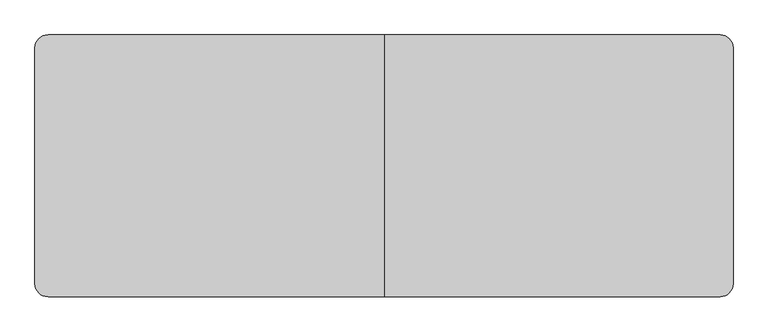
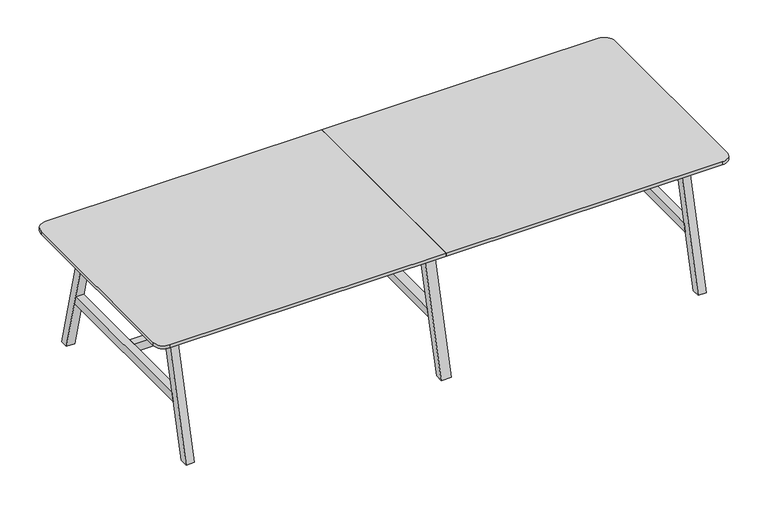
"""IFC4 building model written with IfcOpenShell, lengths in millimetres: furniture geometry, BDG_BossDesign_Tbls_AgentTables6Legs : AGE-DT-6L-3200-1200-3D."""

from ifc_helpers import new_model, si_unit, point, frame, frame_2d, origin, place, context, project, spatial, polyline, circle_curve, trimmed, segment, composite_curve, outline, extrude, source, transform, mapped, element, save


def furniture_c97e34f6(model_context):
    return source(origin(), model_context, "Body", "SweptSolid", [
        extrude(outline(polyline([(600.0, 0.0), (554.9999949, 0.0), (385.5, 660.0), (430.5000051, 660.0), (600.0, 0.0)])), frame((-27.5, 0.0, 0.0), z_axis=(1.0, 0.0, 0.0), x_axis=(0.0, 1.0, 0.0)), (0.0, 0.0, 1.0), 55.0),
        extrude(outline(polyline([(-600.0, 0.0), (-430.5000051, 660.0), (-385.5, 660.0), (-554.9999949, 0.0), (-600.0, 0.0)])), frame((-27.5, 0.0, 0.0), z_axis=(1.0, 0.0, 0.0), x_axis=(0.0, 1.0, 0.0)), (0.0, 0.0, 1.0), 55.0),
        extrude(outline(polyline([(477.9545427, 300.0), (-477.9545427, 300.0), (-466.3977249, 345.0), (466.3977249, 345.0), (477.9545427, 300.0)])), frame((-27.5, 0.0, 0.0), z_axis=(1.0, 0.0, 0.0), x_axis=(0.0, 1.0, 0.0)), (0.0, 0.0, 1.0), 55.0),
        extrude(outline(composite_curve([segment(polyline([(0.0, 600.0), (0.0, -600.0), (-1540.0, -600.0)]), True, "CONTINUOUS"), segment(trimmed(circle_curve(frame_2d((-1540.0, -540.0)), 60.0), [point((-1540.0, -600.0))], [point((-1600.0, -540.0))], False, "CARTESIAN"), True, "CONTINUOUS"), segment(polyline([(-1600.0, -540.0), (-1600.0, 540.0)]), True, "CONTINUOUS"), segment(trimmed(circle_curve(frame_2d((-1540.0, 540.0)), 60.0), [point((-1600.0, 540.0))], [point((-1540.0, 600.0))], False, "CARTESIAN"), True, "CONTINUOUS"), segment(polyline([(-1540.0, 600.0), (0.0, 600.0)]), True, "CONTINUOUS")], self_intersect=False)), frame((0.0, 0.0, 722.0), z_axis=(0.0, 0.0, 1.0), x_axis=(1.0, 0.0, 0.0)), (0.0, 0.0, 1.0), 18.0),
        extrude(outline(polyline([(-466.3977249, 345.0), (466.3977249, 345.0), (477.9545427, 300.0), (-477.9545427, 300.0), (-466.3977249, 345.0)])), frame((1405.0, 0.0, 0.0), z_axis=(1.0, 0.0, 0.0), x_axis=(0.0, 1.0, 0.0)), (0.0, 0.0, 1.0), 45.0),
        extrude(outline(polyline([(600.0, 0.0), (554.9999949, 0.0), (385.5, 660.0), (430.5000051, 660.0), (600.0, 0.0)])), frame((-1450.0, 0.0, 0.0), z_axis=(1.0, 0.0, 0.0), x_axis=(0.0, 1.0, 0.0)), (0.0, 0.0, 1.0), 45.0),
        extrude(outline(polyline([(-600.0, 0.0), (-430.5000051, 660.0), (-385.5, 660.0), (-554.9999949, 0.0), (-600.0, 0.0)])), frame((-1450.0, 0.0, 0.0), z_axis=(1.0, 0.0, 0.0), x_axis=(0.0, 1.0, 0.0)), (0.0, 0.0, 1.0), 45.0),
        extrude(outline(polyline([(-466.3977249, 345.0), (466.3977249, 345.0), (477.9545427, 300.0), (-477.9545427, 300.0), (-466.3977249, 345.0)])), frame((-1450.0, 0.0, 0.0), z_axis=(1.0, 0.0, 0.0), x_axis=(0.0, 1.0, 0.0)), (0.0, 0.0, 1.0), 45.0),
        extrude(outline(polyline([(-426.6006165, 634.973938), (-404.2770691, 722.0), (-379.5, 722.0), (-401.8235474, 634.973938), (-426.6006165, 634.973938)])), frame((-1405.0, 0.0, 0.0), z_axis=(1.0, 0.0, 0.0), x_axis=(0.0, 1.0, 0.0)), (0.0, 0.0, 1.0), 2810.0),
        extrude(outline(polyline([(426.6006165, 634.973938), (401.8235474, 634.973938), (379.5, 722.0), (404.2770691, 722.0), (426.6006165, 634.973938)])), frame((-1405.0, 0.0, 0.0), z_axis=(1.0, 0.0, 0.0), x_axis=(0.0, 1.0, 0.0)), (0.0, 0.0, 1.0), 2810.0),
        extrude(outline(polyline([(599.7999878, 0.0), (554.7999827, 0.0), (385.5, 660.0), (430.5000051, 660.0), (599.7999878, 0.0)])), frame((1405.0, 0.0, 0.0), z_axis=(1.0, 0.0, 0.0), x_axis=(0.0, 1.0, 0.0)), (0.0, 0.0, 1.0), 45.0),
        extrude(outline(polyline([(-599.7999878, 0.0), (-430.5000051, 660.0), (-385.5, 660.0), (-554.7999827, 0.0), (-599.7999878, 0.0)])), frame((1405.0, 0.0, 0.0), z_axis=(1.0, 0.0, 0.0), x_axis=(0.0, 1.0, 0.0)), (0.0, 0.0, 1.0), 45.0),
        extrude(outline(polyline([(-27.5, 22.5000305), (-27.5, -22.5000305), (-1405.0, -22.5000305), (-1405.0, 22.5000305), (-27.5, 22.5000305)])), frame((0.0, 0.0, 300.0), z_axis=(0.0, 0.0, 1.0), x_axis=(1.0, 0.0, 0.0)), (0.0, 0.0, 1.0), 45.0),
        extrude(outline(polyline([(27.5, -22.5000305), (27.5, 22.5000305), (1405.0, 22.5000305), (1405.0, -22.5000305), (27.5, -22.5000305)])), frame((0.0, 0.0, 300.0), z_axis=(0.0, 0.0, 1.0), x_axis=(1.0, 0.0, 0.0)), (0.0, 0.0, 1.0), 45.0),
        extrude(outline(composite_curve([segment(trimmed(circle_curve(frame_2d((1540.0, 540.0)), 60.0), [point((1540.0, 600.0))], [point((1600.0, 540.0))], False, "CARTESIAN"), True, "CONTINUOUS"), segment(polyline([(1600.0, 540.0), (1600.0, -540.0)]), True, "CONTINUOUS"), segment(trimmed(circle_curve(frame_2d((1540.0, -540.0)), 60.0), [point((1600.0, -540.0))], [point((1540.0, -600.0))], False, "CARTESIAN"), True, "CONTINUOUS"), segment(polyline([(1540.0, -600.0), (0.0, -600.0), (0.0, 600.0), (1540.0, 600.0)]), True, "CONTINUOUS")], self_intersect=False)), frame((0.0, 0.0, 722.0), z_axis=(0.0, 0.0, 1.0), x_axis=(1.0, 0.0, 0.0)), (0.0, 0.0, 1.0), 18.0),
    ])


if __name__ == "__main__":
    model = new_model("IFC4")
    model_context = context("Model", 3, world=origin())
    ifc_project = project(units=[si_unit("LENGTHUNIT", "METRE", prefix="MILLI")], contexts=[model_context])
    site = spatial("IfcSite", under=ifc_project)
    building = spatial("IfcBuilding", under=site)
    placement = place(None, origin())
    furniture_shape = furniture_c97e34f6(model_context)
    element("IfcFurniture", 1, ObjectType="BDG_BossDesign_Tbls_AgentTables6Legs : AGE-DT-6L-3200-1200-3D", at=placement, inside=building, context=model_context, shape_type="MappedRepresentation", body=[
        mapped(furniture_shape, transform((0.0, 0.0, 0.0), x_axis=(1.0, 0.0, 0.0), y_axis=(0.0, 1.0, 0.0), z_axis=(0.0, 0.0, 1.0))),
    ])
    save(model, "model.ifc")
